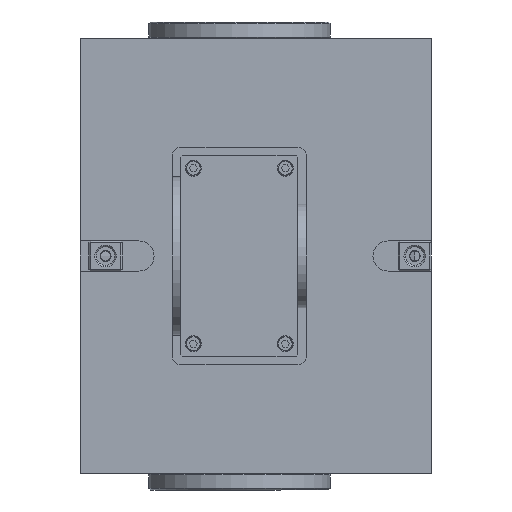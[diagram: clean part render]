
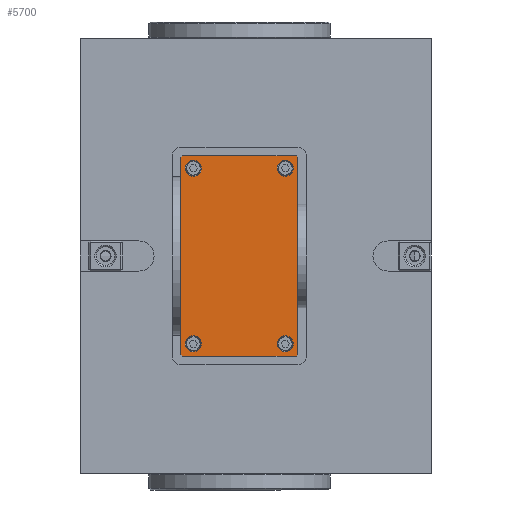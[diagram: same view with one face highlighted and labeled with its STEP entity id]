
A CAD part, front view. The second image highlights one B-rep face of the part: STEP entity #5700.
In plain terms, the highlighted planar face has unit normal (0, -1, 0).
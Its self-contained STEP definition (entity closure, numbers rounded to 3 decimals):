
#190 = CARTESIAN_POINT ( 'NONE',  ( 130., -184.5, 60. ) ) ;
#356 = EDGE_CURVE ( 'NONE', #4031, #19803, #6980, .T. ) ;
#424 = EDGE_LOOP ( 'NONE', ( #5955, #19920, #5260, #1337, #11875, #19720, #8576, #22099 ) ) ;
#933 = DIRECTION ( 'NONE',  ( 0., -1., 0. ) ) ;
#1241 = EDGE_CURVE ( 'NONE', #5628, #17930, #15863, .T. ) ;
#1337 = ORIENTED_EDGE ( 'NONE', *, *, #21588, .T. ) ;
#1380 = EDGE_CURVE ( 'NONE', #18317, #5628, #9099, .T. ) ;
#1452 = DIRECTION ( 'NONE',  ( 0., 0., -1. ) ) ;
#1614 = VERTEX_POINT ( 'NONE', #20621 ) ;
#1728 = VERTEX_POINT ( 'NONE', #8701 ) ;
#1797 = CARTESIAN_POINT ( 'NONE',  ( 130., -184.5, -59. ) ) ;
#1843 = LINE ( 'NONE', #21288, #7745 ) ;
#1863 = DIRECTION ( 'NONE',  ( 0., -1., 0. ) ) ;
#2535 = CARTESIAN_POINT ( 'NONE',  ( 67.5, -184.5, -52.5 ) ) ;
#2575 = DIRECTION ( 'NONE',  ( 0.707, 0., -0.707 ) ) ;
#2713 = AXIS2_PLACEMENT_3D ( 'NONE', #2535, #933, #14761 ) ;
#2800 = VECTOR ( 'NONE', #13795, 1000. ) ;
#3165 = FACE_BOUND ( 'NONE', #11649, .T. ) ;
#3242 = CIRCLE ( 'NONE', #19643, 4.75 ) ;
#3438 = CARTESIAN_POINT ( 'NONE',  ( 61., -184.5, 60. ) ) ;
#3501 = FACE_BOUND ( 'NONE', #9741, .T. ) ;
#3526 = CARTESIAN_POINT ( 'NONE',  ( 130., -184.5, 60. ) ) ;
#3726 = CARTESIAN_POINT ( 'NONE',  ( 62.75, -184.5, 52.5 ) ) ;
#3774 = EDGE_CURVE ( 'NONE', #18693, #18693, #3242, .T. ) ;
#4031 = VERTEX_POINT ( 'NONE', #6770 ) ;
#4306 = LINE ( 'NONE', #18212, #21312 ) ;
#4384 = VECTOR ( 'NONE', #7076, 1000. ) ;
#5020 = ORIENTED_EDGE ( 'NONE', *, *, #10149, .F. ) ;
#5079 = VERTEX_POINT ( 'NONE', #3726 ) ;
#5083 = FACE_BOUND ( 'NONE', #7811, .T. ) ;
#5104 = DIRECTION ( 'NONE',  ( 0., -1., 0. ) ) ;
#5260 = ORIENTED_EDGE ( 'NONE', *, *, #21318, .T. ) ;
#5436 = CARTESIAN_POINT ( 'NONE',  ( 130., -184.5, -60. ) ) ;
#5628 = VERTEX_POINT ( 'NONE', #10581 ) ;
#5700 = ADVANCED_FACE ( 'NONE', ( #7157, #3501, #3165, #5083, #20518 ), #8630, .F. ) ;
#5955 = ORIENTED_EDGE ( 'NONE', *, *, #10189, .T. ) ;
#6484 = ORIENTED_EDGE ( 'NONE', *, *, #7462, .F. ) ;
#6661 = CARTESIAN_POINT ( 'NONE',  ( 60., -184.5, 59. ) ) ;
#6770 = CARTESIAN_POINT ( 'NONE',  ( 130., -184.5, 59. ) ) ;
#6826 = VERTEX_POINT ( 'NONE', #6661 ) ;
#6980 = LINE ( 'NONE', #13927, #7808 ) ;
#7076 = DIRECTION ( 'NONE',  ( 0., 0., 1. ) ) ;
#7157 = FACE_BOUND ( 'NONE', #11129, .T. ) ;
#7360 = DIRECTION ( 'NONE',  ( 0., -1., 0. ) ) ;
#7430 = AXIS2_PLACEMENT_3D ( 'NONE', #11935, #15379, #15592 ) ;
#7462 = EDGE_CURVE ( 'NONE', #15036, #15036, #16951, .T. ) ;
#7485 = CARTESIAN_POINT ( 'NONE',  ( 122.5, -184.5, -52.5 ) ) ;
#7558 = AXIS2_PLACEMENT_3D ( 'NONE', #15185, #5104, #20656 ) ;
#7745 = VECTOR ( 'NONE', #21413, 1000. ) ;
#7808 = VECTOR ( 'NONE', #20906, 1000. ) ;
#7811 = EDGE_LOOP ( 'NONE', ( #6484 ) ) ;
#8551 = AXIS2_PLACEMENT_3D ( 'NONE', #16017, #7360, #14306 ) ;
#8576 = ORIENTED_EDGE ( 'NONE', *, *, #18603, .T. ) ;
#8611 = VECTOR ( 'NONE', #10823, 1000. ) ;
#8630 = PLANE ( 'NONE',  #7430 ) ;
#8701 = CARTESIAN_POINT ( 'NONE',  ( 62.75, -184.5, -52.5 ) ) ;
#8841 = DIRECTION ( 'NONE',  ( -1., 0., 0. ) ) ;
#9018 = DIRECTION ( 'NONE',  ( 0.707, 0., 0.707 ) ) ;
#9099 = LINE ( 'NONE', #5436, #8611 ) ;
#9559 = VERTEX_POINT ( 'NONE', #3438 ) ;
#9741 = EDGE_LOOP ( 'NONE', ( #14893 ) ) ;
#9918 = VECTOR ( 'NONE', #1452, 1000. ) ;
#10055 = CARTESIAN_POINT ( 'NONE',  ( 129., -184.5, 60. ) ) ;
#10147 = CARTESIAN_POINT ( 'NONE',  ( 61., -184.5, -60. ) ) ;
#10149 = EDGE_CURVE ( 'NONE', #5079, #5079, #16670, .T. ) ;
#10173 = LINE ( 'NONE', #190, #4384 ) ;
#10189 = EDGE_CURVE ( 'NONE', #19803, #9559, #14011, .T. ) ;
#10515 = CARTESIAN_POINT ( 'NONE',  ( 129., -184.5, -60. ) ) ;
#10581 = CARTESIAN_POINT ( 'NONE',  ( 129., -184.5, -60. ) ) ;
#10823 = DIRECTION ( 'NONE',  ( 1., 0., 0. ) ) ;
#11129 = EDGE_LOOP ( 'NONE', ( #18847 ) ) ;
#11273 = CARTESIAN_POINT ( 'NONE',  ( 60., -184.5, 60. ) ) ;
#11478 = CIRCLE ( 'NONE', #2713, 4.75 ) ;
#11649 = EDGE_LOOP ( 'NONE', ( #5020 ) ) ;
#11875 = ORIENTED_EDGE ( 'NONE', *, *, #1380, .T. ) ;
#11935 = CARTESIAN_POINT ( 'NONE',  ( 130., -184.5, -60. ) ) ;
#12382 = EDGE_CURVE ( 'NONE', #9559, #6826, #1843, .T. ) ;
#12990 = LINE ( 'NONE', #11273, #9918 ) ;
#13201 = CARTESIAN_POINT ( 'NONE',  ( 117.75, -184.5, 52.5 ) ) ;
#13795 = DIRECTION ( 'NONE',  ( -1., 0., 0. ) ) ;
#13927 = CARTESIAN_POINT ( 'NONE',  ( 130., -184.5, 59. ) ) ;
#14011 = LINE ( 'NONE', #3526, #2800 ) ;
#14306 = DIRECTION ( 'NONE',  ( -1., 0., 0. ) ) ;
#14761 = DIRECTION ( 'NONE',  ( -1., 0., 0. ) ) ;
#14893 = ORIENTED_EDGE ( 'NONE', *, *, #3774, .F. ) ;
#15036 = VERTEX_POINT ( 'NONE', #13201 ) ;
#15083 = EDGE_CURVE ( 'NONE', #1728, #1728, #11478, .T. ) ;
#15185 = CARTESIAN_POINT ( 'NONE',  ( 67.5, -184.5, 52.5 ) ) ;
#15379 = DIRECTION ( 'NONE',  ( 0., 1., 0. ) ) ;
#15592 = DIRECTION ( 'NONE',  ( 1., 0., 0. ) ) ;
#15863 = LINE ( 'NONE', #10515, #17695 ) ;
#16017 = CARTESIAN_POINT ( 'NONE',  ( 122.5, -184.5, 52.5 ) ) ;
#16670 = CIRCLE ( 'NONE', #7558, 4.75 ) ;
#16951 = CIRCLE ( 'NONE', #8551, 4.75 ) ;
#17695 = VECTOR ( 'NONE', #9018, 1000. ) ;
#17930 = VERTEX_POINT ( 'NONE', #1797 ) ;
#18212 = CARTESIAN_POINT ( 'NONE',  ( 60., -184.5, -59. ) ) ;
#18317 = VERTEX_POINT ( 'NONE', #10147 ) ;
#18603 = EDGE_CURVE ( 'NONE', #17930, #4031, #10173, .T. ) ;
#18693 = VERTEX_POINT ( 'NONE', #20199 ) ;
#18847 = ORIENTED_EDGE ( 'NONE', *, *, #15083, .F. ) ;
#19643 = AXIS2_PLACEMENT_3D ( 'NONE', #7485, #1863, #8841 ) ;
#19720 = ORIENTED_EDGE ( 'NONE', *, *, #1241, .T. ) ;
#19803 = VERTEX_POINT ( 'NONE', #10055 ) ;
#19920 = ORIENTED_EDGE ( 'NONE', *, *, #12382, .T. ) ;
#20199 = CARTESIAN_POINT ( 'NONE',  ( 117.75, -184.5, -52.5 ) ) ;
#20518 = FACE_OUTER_BOUND ( 'NONE', #424, .T. ) ;
#20621 = CARTESIAN_POINT ( 'NONE',  ( 60., -184.5, -59. ) ) ;
#20656 = DIRECTION ( 'NONE',  ( -1., 0., 0. ) ) ;
#20906 = DIRECTION ( 'NONE',  ( -0.707, 0., 0.707 ) ) ;
#21288 = CARTESIAN_POINT ( 'NONE',  ( 61., -184.5, 60. ) ) ;
#21312 = VECTOR ( 'NONE', #2575, 1000. ) ;
#21318 = EDGE_CURVE ( 'NONE', #6826, #1614, #12990, .T. ) ;
#21413 = DIRECTION ( 'NONE',  ( -0.707, 0., -0.707 ) ) ;
#21588 = EDGE_CURVE ( 'NONE', #1614, #18317, #4306, .T. ) ;
#22099 = ORIENTED_EDGE ( 'NONE', *, *, #356, .T. ) ;
